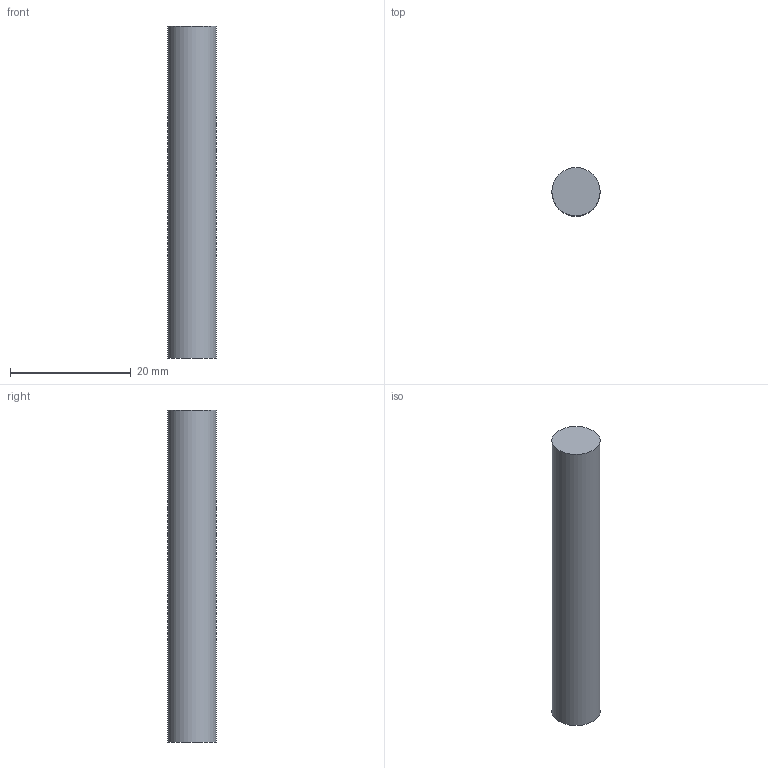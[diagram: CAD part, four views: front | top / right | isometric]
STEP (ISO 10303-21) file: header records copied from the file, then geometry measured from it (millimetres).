
FILE_DESCRIPTION(('Open CASCADE Model'),'2;1');
FILE_NAME('Open CASCADE Shape Model','2026-10-04T02:31:45',('Author'),( 'Open CASCADE'),'Open CASCADE STEP processor 8.0','Open CASCADE 8.0' ,'Unknown');
FILE_SCHEMA(('AUTOMOTIVE_DESIGN { 1 0 10303 214 1 1 1 1 }'));
Length unit declared in the file: millimetre
Products named in the file (1): Open CASCADE STEP translator 8.0 349
Bounding box: 8 x 8 x 55 mm (x, y, z)
Volume: 2764.6 mm3; surface area: 1482.8 mm2
Topology: 1 solids, 1 shells, 3 faces, 3 edges, 2 vertices
Faces by surface type: plane 2, cylinder 1
Full cylindrical faces by diameter (mm): 8 x1
Entity records: 108 total; most frequent: DIRECTION 19, CARTESIAN_POINT 15, AXIS2_PLACEMENT_3D 6, ORIENTED_EDGE 6, PCURVE 6, DEFINITIONAL_REPRESENTATION 6, LINE 5, VECTOR 5
